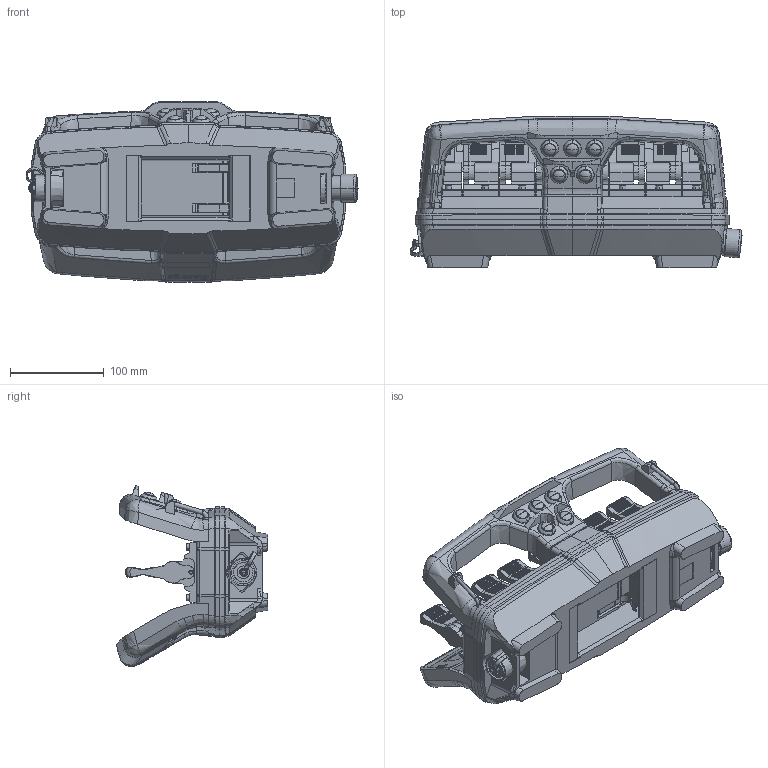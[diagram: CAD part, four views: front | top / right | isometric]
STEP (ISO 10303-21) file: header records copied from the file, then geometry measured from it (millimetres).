
FILE_DESCRIPTION (( 'STEP AP203' ), '1' );
FILE_NAME ('S-1287.STEP', '2018-05-28T11:21:34', ( '' ), ( '' ), 'SwSTEP 2.0', 'SolidWorks 2018', '' );
FILE_SCHEMA (( 'CONFIG_CONTROL_DESIGN' ));
Products named in the file (1): S-1287
Bounding box: 354 x 161.47 x 192.95 mm (x, y, z)
Volume: 3102145.3 mm3; surface area: 590810 mm2
Topology: 17 solids, 44 shells, 5298 faces, 14693 edges, 9575 vertices
Faces by surface type: plane 3550, bspline 650, cone 565, cylinder 375, torus 114, sphere 44
Entity records: 193362 total; most frequent: CARTESIAN_POINT 65387, ORIENTED_EDGE 29294, DIRECTION 22656, EDGE_CURVE 14647, VECTOR 9604, LINE 9604, VERTEX_POINT 9575, AXIS2_PLACEMENT_3D 6526
